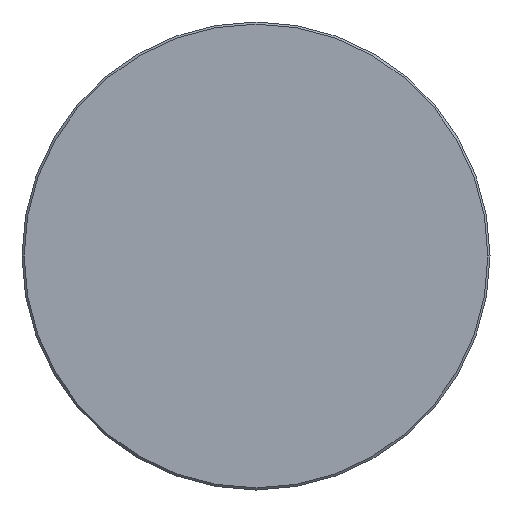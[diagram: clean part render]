
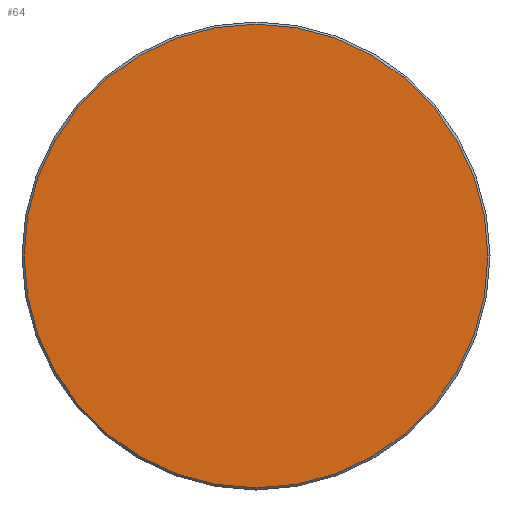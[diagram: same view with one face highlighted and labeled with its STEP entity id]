
A CAD part, left-side view. The second image highlights one B-rep face of the part: STEP entity #64.
In plain terms, the highlighted planar face has unit normal (-1, 0, 0).
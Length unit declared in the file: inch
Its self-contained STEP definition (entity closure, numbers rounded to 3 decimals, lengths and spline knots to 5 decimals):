
#46 = VERTEX_POINT ( 'NONE', #234 ) ;
#49 = DIRECTION ( 'NONE',  ( -1., 0., 0. ) ) ;
#64 = ADVANCED_FACE ( 'NONE', ( #110 ), #99, .T. ) ;
#70 = CARTESIAN_POINT ( 'NONE',  ( 0., 0., 0. ) ) ;
#99 = PLANE ( 'NONE',  #114 ) ;
#100 = DIRECTION ( 'NONE',  ( 0., -1., 0. ) ) ;
#102 = DIRECTION ( 'NONE',  ( -1., 0., 0. ) ) ;
#110 = FACE_OUTER_BOUND ( 'NONE', #340, .T. ) ;
#114 = AXIS2_PLACEMENT_3D ( 'NONE', #70, #177, #265 ) ;
#136 = ORIENTED_EDGE ( 'NONE', *, *, #371, .T. ) ;
#139 = CIRCLE ( 'NONE', #250, 0.4335 ) ;
#177 = DIRECTION ( 'NONE',  ( -1., 0., 0. ) ) ;
#185 = CARTESIAN_POINT ( 'NONE',  ( 0., 0.4335, 0. ) ) ;
#234 = CARTESIAN_POINT ( 'NONE',  ( 0., -0.4335, 0. ) ) ;
#238 = AXIS2_PLACEMENT_3D ( 'NONE', #367, #49, #251 ) ;
#250 = AXIS2_PLACEMENT_3D ( 'NONE', #323, #102, #100 ) ;
#251 = DIRECTION ( 'NONE',  ( 0., -1., 0. ) ) ;
#265 = DIRECTION ( 'NONE',  ( 0., -1., 0. ) ) ;
#280 = CIRCLE ( 'NONE', #238, 0.4335 ) ;
#289 = EDGE_CURVE ( 'NONE', #46, #357, #139, .T. ) ;
#322 = ORIENTED_EDGE ( 'NONE', *, *, #289, .T. ) ;
#323 = CARTESIAN_POINT ( 'NONE',  ( 0., 0., 0. ) ) ;
#340 = EDGE_LOOP ( 'NONE', ( #136, #322 ) ) ;
#357 = VERTEX_POINT ( 'NONE', #185 ) ;
#367 = CARTESIAN_POINT ( 'NONE',  ( 0., 0., 0. ) ) ;
#371 = EDGE_CURVE ( 'NONE', #357, #46, #280, .T. ) ;
